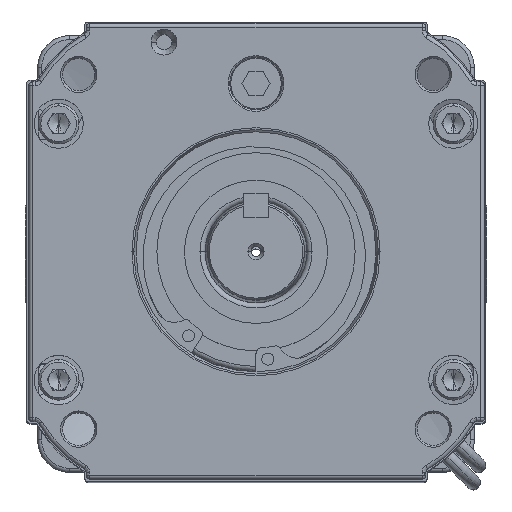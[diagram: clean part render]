
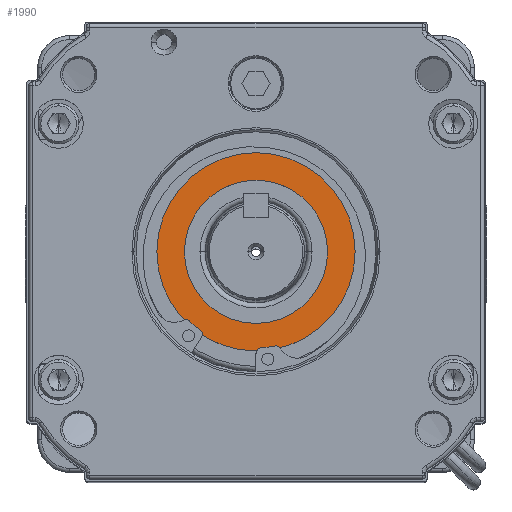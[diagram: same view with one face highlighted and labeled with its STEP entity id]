
A CAD part, top view. The second image highlights one B-rep face of the part: STEP entity #1990.
In plain terms, the highlighted planar face has unit normal (0, 0, 1).
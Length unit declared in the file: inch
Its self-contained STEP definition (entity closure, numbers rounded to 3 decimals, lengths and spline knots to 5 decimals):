
#352 = DIRECTION ( 'NONE',  ( -1., 0., 0. ) ) ;
#670 = ORIENTED_EDGE ( 'NONE', *, *, #19246, .T. ) ;
#1990 = ADVANCED_FACE ( 'NONE', ( #20390, #9592 ), #10320, .F. ) ;
#3015 = CIRCLE ( 'NONE', #4114, 0.55315 ) ;
#3354 = CARTESIAN_POINT ( 'NONE',  ( 0., 0., 8.60325 ) ) ;
#4114 = AXIS2_PLACEMENT_3D ( 'NONE', #6954, #26248, #9889 ) ;
#4272 = CARTESIAN_POINT ( 'NONE',  ( 0.55315, 0., 8.60325 ) ) ;
#4941 = CARTESIAN_POINT ( 'NONE',  ( -0.55315, 0., 8.60325 ) ) ;
#4950 = DIRECTION ( 'NONE',  ( 0., 0., -1. ) ) ;
#6342 = DIRECTION ( 'NONE',  ( -1., 0., 0. ) ) ;
#6817 = CIRCLE ( 'NONE', #13422, 0.55315 ) ;
#6954 = CARTESIAN_POINT ( 'NONE',  ( 0., 0., 8.60325 ) ) ;
#7836 = VERTEX_POINT ( 'NONE', #35714 ) ;
#8403 = CARTESIAN_POINT ( 'NONE',  ( 0., 0.55315, 8.60325 ) ) ;
#9200 = AXIS2_PLACEMENT_3D ( 'NONE', #8403, #34735, #30090 ) ;
#9592 = FACE_BOUND ( 'NONE', #14023, .T. ) ;
#9889 = DIRECTION ( 'NONE',  ( -1., 0., 0. ) ) ;
#10320 = PLANE ( 'NONE',  #9200 ) ;
#12196 = VERTEX_POINT ( 'NONE', #18045 ) ;
#13422 = AXIS2_PLACEMENT_3D ( 'NONE', #33512, #17502, #352 ) ;
#13925 = CIRCLE ( 'NONE', #16127, 0.76575 ) ;
#14023 = EDGE_LOOP ( 'NONE', ( #670, #14355 ) ) ;
#14355 = ORIENTED_EDGE ( 'NONE', *, *, #19788, .T. ) ;
#15686 = VERTEX_POINT ( 'NONE', #4272 ) ;
#16127 = AXIS2_PLACEMENT_3D ( 'NONE', #21781, #4950, #24514 ) ;
#17162 = AXIS2_PLACEMENT_3D ( 'NONE', #3354, #23026, #6342 ) ;
#17502 = DIRECTION ( 'NONE',  ( 0., 0., -1. ) ) ;
#18045 = CARTESIAN_POINT ( 'NONE',  ( -0.76575, 0., 8.60325 ) ) ;
#19246 = EDGE_CURVE ( 'NONE', #15686, #20676, #6817, .T. ) ;
#19788 = EDGE_CURVE ( 'NONE', #20676, #15686, #3015, .T. ) ;
#20390 = FACE_OUTER_BOUND ( 'NONE', #25982, .T. ) ;
#20676 = VERTEX_POINT ( 'NONE', #4941 ) ;
#21781 = CARTESIAN_POINT ( 'NONE',  ( 0., 0., 8.60325 ) ) ;
#23026 = DIRECTION ( 'NONE',  ( 0., 0., -1. ) ) ;
#24514 = DIRECTION ( 'NONE',  ( -1., 0., 0. ) ) ;
#25982 = EDGE_LOOP ( 'NONE', ( #31541, #27394 ) ) ;
#26074 = CIRCLE ( 'NONE', #17162, 0.76575 ) ;
#26248 = DIRECTION ( 'NONE',  ( 0., 0., -1. ) ) ;
#27394 = ORIENTED_EDGE ( 'NONE', *, *, #28887, .F. ) ;
#28887 = EDGE_CURVE ( 'NONE', #12196, #7836, #26074, .T. ) ;
#30090 = DIRECTION ( 'NONE',  ( -1., 0., 0. ) ) ;
#31541 = ORIENTED_EDGE ( 'NONE', *, *, #32170, .F. ) ;
#32170 = EDGE_CURVE ( 'NONE', #7836, #12196, #13925, .T. ) ;
#33512 = CARTESIAN_POINT ( 'NONE',  ( 0., 0., 8.60325 ) ) ;
#34735 = DIRECTION ( 'NONE',  ( 0., 0., -1. ) ) ;
#35714 = CARTESIAN_POINT ( 'NONE',  ( 0.76575, 0., 8.60325 ) ) ;
